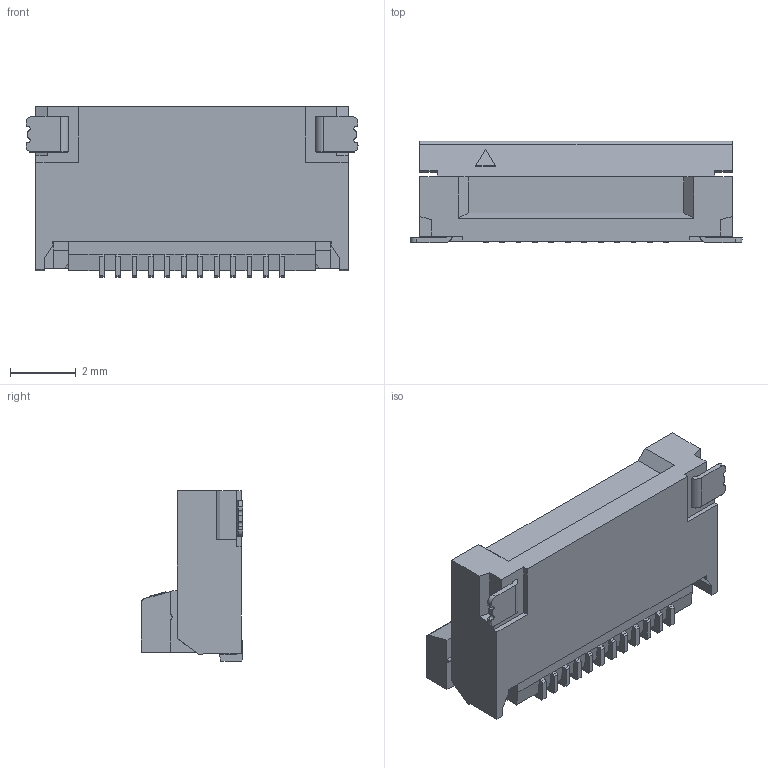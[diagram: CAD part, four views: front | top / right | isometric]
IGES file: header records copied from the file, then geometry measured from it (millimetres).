
Start section: SolidWorks IGES file using analytic representation for surfaces
Global section: file name: C:\Users\ieng2-005\Desktop\isimaru\3dƒ‚ƒfƒ‹\20593-012E-01C ASS'Y ACT OPEN IGES R1 ALL.IGS; native system: SolidWorks 2014; preprocessor: SolidWorks 2014; author: ieng2-005; date: 170516.171704; units: millimetre
Bounding box: 10.1 x 3.1 x 5.2 mm (x, y, z)
Surface area: 202.8 mm2 (no closed solid volume)
Topology: 0 solids, 0 shells, 269 faces, 1644 edges, 1644 vertices
Faces by surface type: bspline 235, revolution 34
